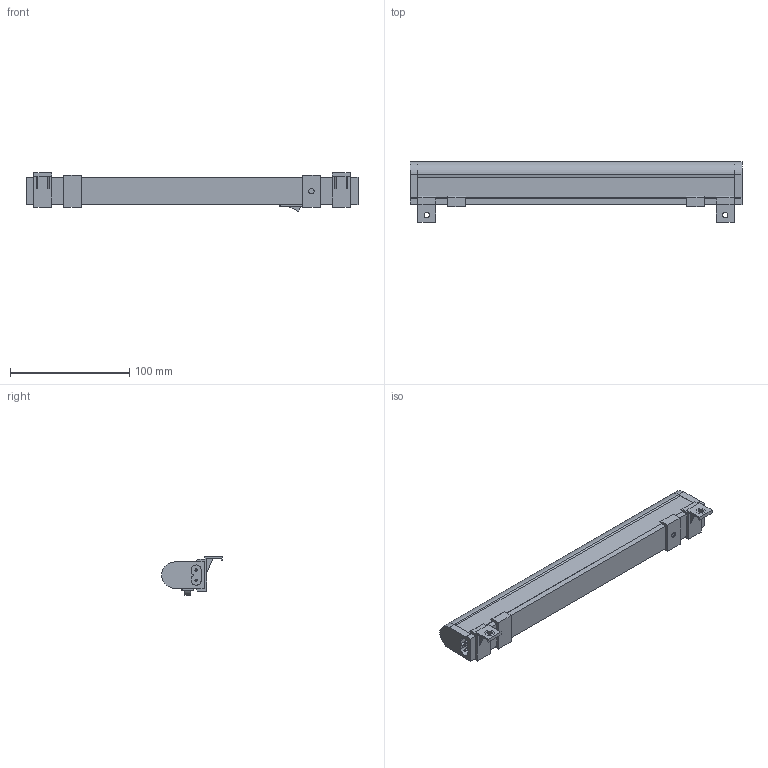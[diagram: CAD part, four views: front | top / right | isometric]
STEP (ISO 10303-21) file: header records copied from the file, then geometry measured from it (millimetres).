
FILE_DESCRIPTION (( 'STEP AP203' ), '1' );
FILE_NAME ('LA 4 LED.STEP', '2022-03-22T09:35:52', ( '' ), ( '' ), 'SwSTEP 2.0', 'SolidWorks 2018', '' );
FILE_SCHEMA (( 'CONFIG_CONTROL_DESIGN' ));
Length unit declared in the file: millimetre
Products named in the file (1): LA 4 LED
Bounding box: 278 x 51 x 32.45 mm (x, y, z)
Volume: 208234.1 mm3; surface area: 55261.1 mm2
Topology: 9 solids, 9 shells, 199 faces, 523 edges, 344 vertices
Faces by surface type: plane 149, cylinder 42, sphere 8
Entity records: 6046 total; most frequent: CARTESIAN_POINT 1043, ORIENTED_EDGE 1014, DIRECTION 999, EDGE_CURVE 507, VECTOR 415, LINE 415, VERTEX_POINT 336, AXIS2_PLACEMENT_3D 292
